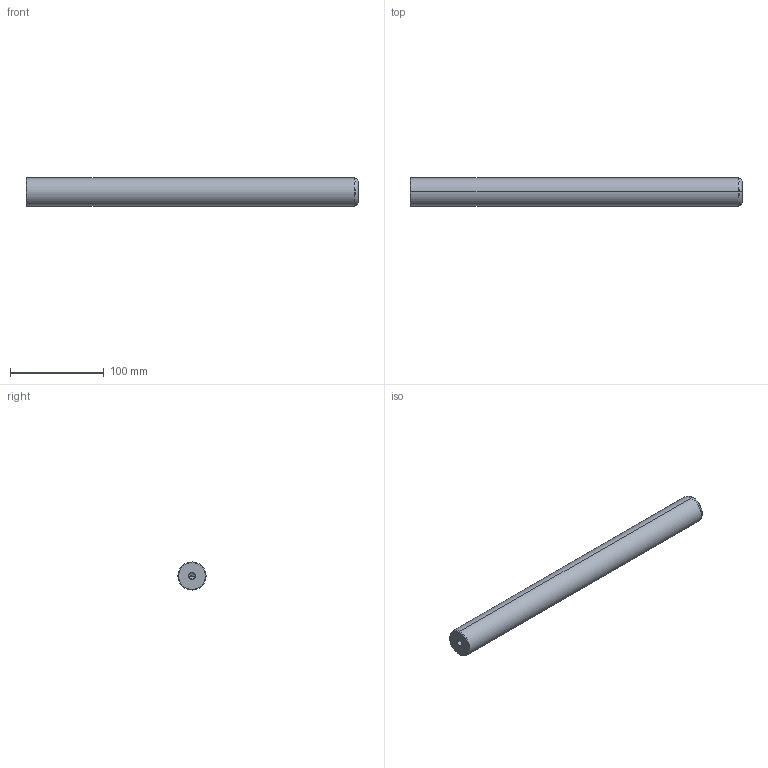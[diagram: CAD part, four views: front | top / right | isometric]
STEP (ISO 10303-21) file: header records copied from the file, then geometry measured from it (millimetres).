
FILE_DESCRIPTION(('CATIA V5 STEP Exchange'),'2;1');
FILE_NAME('C:\Users\Utente\Desktop\IO LAVORO\3D X SITO CF\X SITO\720\720-30x355.stp','2021-01-01T12:27:49+00:00',('none'),('none'),'CATIA Version 5 Release 20 GA (IN-10)','CATIA V5 STEP AP203','none');
FILE_SCHEMA(('CONFIG_CONTROL_DESIGN'));
Length unit declared in the file: millimetre
Products named in the file (1): 720-30x355
Bounding box: 355 x 30 x 30 mm (x, y, z)
Volume: 248903.9 mm3; surface area: 35668.7 mm2
Topology: 1 solids, 1 shells, 22 faces, 62 edges, 40 vertices
Faces by surface type: cone 12, cylinder 6, plane 2, torus 2
Entity records: 806 total; most frequent: CARTESIAN_POINT 229, ORIENTED_EDGE 116, DIRECTION 93, EDGE_CURVE 58, AXIS2_PLACEMENT_3D 54, VERTEX_POINT 40, CIRCLE 31, EDGE_LOOP 24
